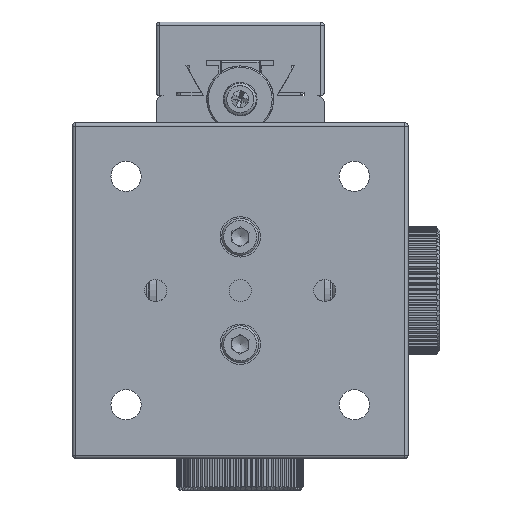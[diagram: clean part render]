
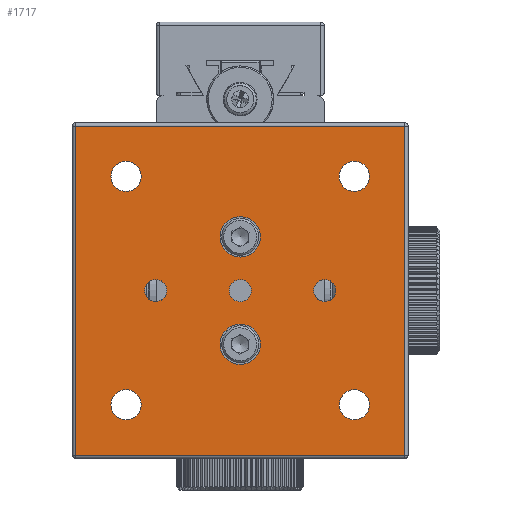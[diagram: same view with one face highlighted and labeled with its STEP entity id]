
A CAD part, front view. The second image highlights one B-rep face of the part: STEP entity #1717.
In plain terms, the highlighted planar face has unit normal (0, -1, 0).
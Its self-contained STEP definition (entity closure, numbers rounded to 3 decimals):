
#72 = CARTESIAN_POINT ( 'NONE',  ( -29.078, -63.896, 166.702 ) ) ;
#665 = EDGE_CURVE ( 'NONE', #20840, #3827, #45626, .T. ) ;
#1172 = EDGE_LOOP ( 'NONE', ( #8342 ) ) ;
#1200 = DIRECTION ( 'NONE',  ( 0., -1., 0. ) ) ;
#1412 = FACE_BOUND ( 'NONE', #19498, .T. ) ;
#1528 = CARTESIAN_POINT ( 'NONE',  ( -1.578, -63.896, 183.702 ) ) ;
#1571 = DIRECTION ( 'NONE',  ( 0., 1., 0. ) ) ;
#1653 = FACE_OUTER_BOUND ( 'NONE', #12365, .T. ) ;
#1685 = CIRCLE ( 'NONE', #2408, 1.65 ) ;
#1717 = ADVANCED_FACE ( 'NONE', ( #1653, #36186, #1412, #22257, #15789, #25521, #40139, #29684, #5126, #4684 ), #4438, .T. ) ;
#1812 = CARTESIAN_POINT ( 'NONE',  ( -1.078, -63.896, 134.202 ) ) ;
#2408 = AXIS2_PLACEMENT_3D ( 'NONE', #29875, #16656, #15970 ) ;
#3827 = VERTEX_POINT ( 'NONE', #24846 ) ;
#4219 = AXIS2_PLACEMENT_3D ( 'NONE', #8461, #15307, #18777 ) ;
#4438 = PLANE ( 'NONE',  #24606 ) ;
#4684 = FACE_BOUND ( 'NONE', #28731, .T. ) ;
#4988 = ORIENTED_EDGE ( 'NONE', *, *, #12488, .T. ) ;
#5126 = FACE_BOUND ( 'NONE', #44375, .T. ) ;
#5189 = ORIENTED_EDGE ( 'NONE', *, *, #28916, .F. ) ;
#5834 = DIRECTION ( 'NONE',  ( 0., 1., 0. ) ) ;
#5956 = CARTESIAN_POINT ( 'NONE',  ( -50.578, -63.896, 133.702 ) ) ;
#6068 = CARTESIAN_POINT ( 'NONE',  ( -40.828, -63.896, 141.702 ) ) ;
#6130 = VECTOR ( 'NONE', #24534, 1000. ) ;
#8168 = CIRCLE ( 'NONE', #34075, 1.65 ) ;
#8342 = ORIENTED_EDGE ( 'NONE', *, *, #39202, .T. ) ;
#8461 = CARTESIAN_POINT ( 'NONE',  ( -26.078, -63.896, 150.702 ) ) ;
#8496 = DIRECTION ( 'NONE',  ( 0., 0., 1. ) ) ;
#8506 = ORIENTED_EDGE ( 'NONE', *, *, #34448, .T. ) ;
#8610 = CARTESIAN_POINT ( 'NONE',  ( -26.078, -63.896, 158.702 ) ) ;
#9171 = EDGE_LOOP ( 'NONE', ( #10702 ) ) ;
#9931 = EDGE_CURVE ( 'NONE', #11683, #11683, #42310, .T. ) ;
#9992 = VERTEX_POINT ( 'NONE', #16735 ) ;
#10504 = DIRECTION ( 'NONE',  ( 1., 0., 0. ) ) ;
#10702 = ORIENTED_EDGE ( 'NONE', *, *, #26064, .F. ) ;
#11064 = DIRECTION ( 'NONE',  ( 1., 0., 0. ) ) ;
#11683 = VERTEX_POINT ( 'NONE', #25388 ) ;
#11730 = VERTEX_POINT ( 'NONE', #16620 ) ;
#12365 = EDGE_LOOP ( 'NONE', ( #8506, #30978, #12575, #34839 ) ) ;
#12488 = EDGE_CURVE ( 'NONE', #17737, #17737, #8168, .T. ) ;
#12575 = ORIENTED_EDGE ( 'NONE', *, *, #37426, .T. ) ;
#12660 = AXIS2_PLACEMENT_3D ( 'NONE', #35326, #31386, #10504 ) ;
#12889 = DIRECTION ( 'NONE',  ( 1., 0., 0. ) ) ;
#13508 = VECTOR ( 'NONE', #8496, 1000. ) ;
#13976 = AXIS2_PLACEMENT_3D ( 'NONE', #45875, #1571, #22638 ) ;
#14040 = EDGE_LOOP ( 'NONE', ( #44612 ) ) ;
#14715 = EDGE_CURVE ( 'NONE', #26987, #26987, #16500, .T. ) ;
#15307 = DIRECTION ( 'NONE',  ( 0., -1., 0. ) ) ;
#15681 = ORIENTED_EDGE ( 'NONE', *, *, #14715, .T. ) ;
#15789 = FACE_BOUND ( 'NONE', #29397, .T. ) ;
#15970 = DIRECTION ( 'NONE',  ( 1., 0., 0. ) ) ;
#16113 = EDGE_CURVE ( 'NONE', #33710, #33710, #1685, .T. ) ;
#16425 = CIRCLE ( 'NONE', #34962, 3. ) ;
#16500 = CIRCLE ( 'NONE', #22363, 2.25 ) ;
#16620 = CARTESIAN_POINT ( 'NONE',  ( -1.578, -63.896, 183.202 ) ) ;
#16656 = DIRECTION ( 'NONE',  ( 0., 1., 0. ) ) ;
#16735 = CARTESIAN_POINT ( 'NONE',  ( -37.028, -63.896, 158.702 ) ) ;
#16893 = DIRECTION ( 'NONE',  ( 0., 1., 0. ) ) ;
#16905 = CARTESIAN_POINT ( 'NONE',  ( -51.078, -63.896, 183.202 ) ) ;
#17470 = VERTEX_POINT ( 'NONE', #38122 ) ;
#17737 = VERTEX_POINT ( 'NONE', #21664 ) ;
#18623 = VECTOR ( 'NONE', #27959, 1000. ) ;
#18777 = DIRECTION ( 'NONE',  ( -1., 0., 0. ) ) ;
#19498 = EDGE_LOOP ( 'NONE', ( #5189 ) ) ;
#19841 = LINE ( 'NONE', #1812, #38070 ) ;
#19953 = VERTEX_POINT ( 'NONE', #6068 ) ;
#20204 = DIRECTION ( 'NONE',  ( 1., 0., 0. ) ) ;
#20840 = VERTEX_POINT ( 'NONE', #35798 ) ;
#21259 = DIRECTION ( 'NONE',  ( 0., 1., 0. ) ) ;
#21356 = VERTEX_POINT ( 'NONE', #72 ) ;
#21604 = CARTESIAN_POINT ( 'NONE',  ( -6.828, -63.896, 175.702 ) ) ;
#21664 = CARTESIAN_POINT ( 'NONE',  ( -24.428, -63.896, 158.702 ) ) ;
#22257 = FACE_BOUND ( 'NONE', #25012, .T. ) ;
#22288 = AXIS2_PLACEMENT_3D ( 'NONE', #31323, #5834, #20204 ) ;
#22363 = AXIS2_PLACEMENT_3D ( 'NONE', #33518, #44005, #44431 ) ;
#22638 = DIRECTION ( 'NONE',  ( 1., 0., 0. ) ) ;
#23266 = CARTESIAN_POINT ( 'NONE',  ( -11.828, -63.896, 158.702 ) ) ;
#23481 = CARTESIAN_POINT ( 'NONE',  ( -40.828, -63.896, 175.702 ) ) ;
#23787 = DIRECTION ( 'NONE',  ( -1., 0., 0. ) ) ;
#24534 = DIRECTION ( 'NONE',  ( -1., 0., 0. ) ) ;
#24606 = AXIS2_PLACEMENT_3D ( 'NONE', #8610, #1200, #26212 ) ;
#24846 = CARTESIAN_POINT ( 'NONE',  ( -50.578, -63.896, 134.202 ) ) ;
#25012 = EDGE_LOOP ( 'NONE', ( #15681 ) ) ;
#25388 = CARTESIAN_POINT ( 'NONE',  ( -6.828, -63.896, 141.702 ) ) ;
#25521 = FACE_BOUND ( 'NONE', #31970, .T. ) ;
#26064 = EDGE_CURVE ( 'NONE', #17470, #17470, #34572, .T. ) ;
#26212 = DIRECTION ( 'NONE',  ( -1., 0., 0. ) ) ;
#26987 = VERTEX_POINT ( 'NONE', #23481 ) ;
#27270 = CARTESIAN_POINT ( 'NONE',  ( -26.078, -63.896, 166.702 ) ) ;
#27959 = DIRECTION ( 'NONE',  ( 0., 0., -1. ) ) ;
#27978 = VERTEX_POINT ( 'NONE', #41675 ) ;
#28225 = AXIS2_PLACEMENT_3D ( 'NONE', #28739, #21259, #11064 ) ;
#28731 = EDGE_LOOP ( 'NONE', ( #39685 ) ) ;
#28739 = CARTESIAN_POINT ( 'NONE',  ( -9.078, -63.896, 175.702 ) ) ;
#28916 = EDGE_CURVE ( 'NONE', #21356, #21356, #16425, .T. ) ;
#29397 = EDGE_LOOP ( 'NONE', ( #31396 ) ) ;
#29684 = FACE_BOUND ( 'NONE', #14040, .T. ) ;
#29783 = EDGE_CURVE ( 'NONE', #43216, #43216, #34157, .T. ) ;
#29875 = CARTESIAN_POINT ( 'NONE',  ( -13.478, -63.896, 158.702 ) ) ;
#30978 = ORIENTED_EDGE ( 'NONE', *, *, #665, .T. ) ;
#31011 = CARTESIAN_POINT ( 'NONE',  ( -26.078, -63.896, 158.702 ) ) ;
#31323 = CARTESIAN_POINT ( 'NONE',  ( -9.078, -63.896, 141.702 ) ) ;
#31386 = DIRECTION ( 'NONE',  ( 0., 1., 0. ) ) ;
#31396 = ORIENTED_EDGE ( 'NONE', *, *, #29783, .T. ) ;
#31481 = EDGE_CURVE ( 'NONE', #27978, #11730, #45839, .T. ) ;
#31970 = EDGE_LOOP ( 'NONE', ( #32463 ) ) ;
#32463 = ORIENTED_EDGE ( 'NONE', *, *, #9931, .T. ) ;
#33518 = CARTESIAN_POINT ( 'NONE',  ( -43.078, -63.896, 175.702 ) ) ;
#33710 = VERTEX_POINT ( 'NONE', #23266 ) ;
#34075 = AXIS2_PLACEMENT_3D ( 'NONE', #31011, #16893, #42407 ) ;
#34157 = CIRCLE ( 'NONE', #28225, 2.25 ) ;
#34448 = EDGE_CURVE ( 'NONE', #11730, #20840, #45681, .T. ) ;
#34572 = CIRCLE ( 'NONE', #4219, 3. ) ;
#34839 = ORIENTED_EDGE ( 'NONE', *, *, #31481, .T. ) ;
#34962 = AXIS2_PLACEMENT_3D ( 'NONE', #27270, #37275, #23787 ) ;
#35326 = CARTESIAN_POINT ( 'NONE',  ( -43.078, -63.896, 141.702 ) ) ;
#35636 = CIRCLE ( 'NONE', #12660, 2.25 ) ;
#35798 = CARTESIAN_POINT ( 'NONE',  ( -50.578, -63.896, 183.202 ) ) ;
#36186 = FACE_BOUND ( 'NONE', #9171, .T. ) ;
#36977 = CIRCLE ( 'NONE', #13976, 1.65 ) ;
#37275 = DIRECTION ( 'NONE',  ( 0., -1., 0. ) ) ;
#37426 = EDGE_CURVE ( 'NONE', #3827, #27978, #19841, .T. ) ;
#38070 = VECTOR ( 'NONE', #12889, 1000. ) ;
#38122 = CARTESIAN_POINT ( 'NONE',  ( -29.078, -63.896, 150.702 ) ) ;
#39202 = EDGE_CURVE ( 'NONE', #19953, #19953, #35636, .T. ) ;
#39685 = ORIENTED_EDGE ( 'NONE', *, *, #16113, .T. ) ;
#40139 = FACE_BOUND ( 'NONE', #1172, .T. ) ;
#41675 = CARTESIAN_POINT ( 'NONE',  ( -1.578, -63.896, 134.202 ) ) ;
#41856 = EDGE_CURVE ( 'NONE', #9992, #9992, #36977, .T. ) ;
#42310 = CIRCLE ( 'NONE', #22288, 2.25 ) ;
#42407 = DIRECTION ( 'NONE',  ( 1., 0., 0. ) ) ;
#43216 = VERTEX_POINT ( 'NONE', #21604 ) ;
#44005 = DIRECTION ( 'NONE',  ( 0., 1., 0. ) ) ;
#44375 = EDGE_LOOP ( 'NONE', ( #4988 ) ) ;
#44431 = DIRECTION ( 'NONE',  ( 1., 0., 0. ) ) ;
#44612 = ORIENTED_EDGE ( 'NONE', *, *, #41856, .T. ) ;
#45626 = LINE ( 'NONE', #5956, #18623 ) ;
#45681 = LINE ( 'NONE', #16905, #6130 ) ;
#45839 = LINE ( 'NONE', #1528, #13508 ) ;
#45875 = CARTESIAN_POINT ( 'NONE',  ( -38.678, -63.896, 158.702 ) ) ;
